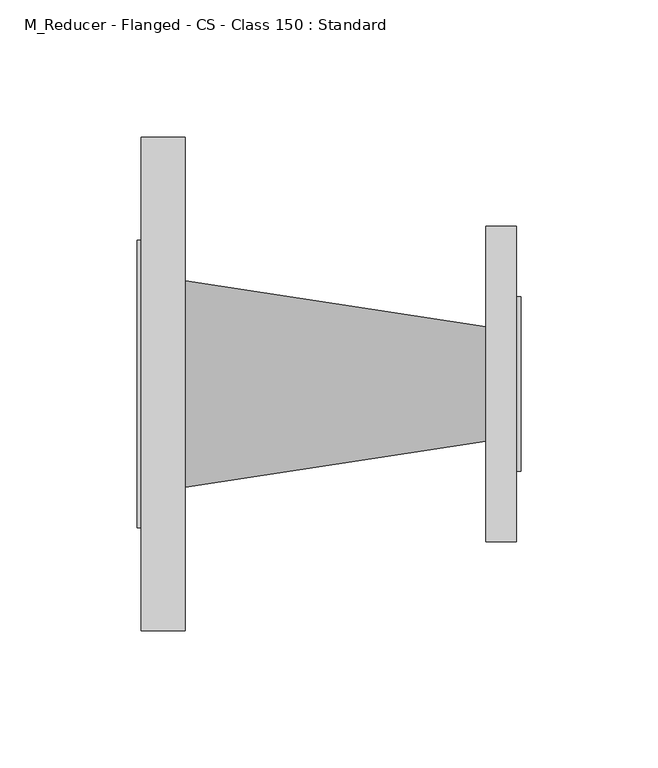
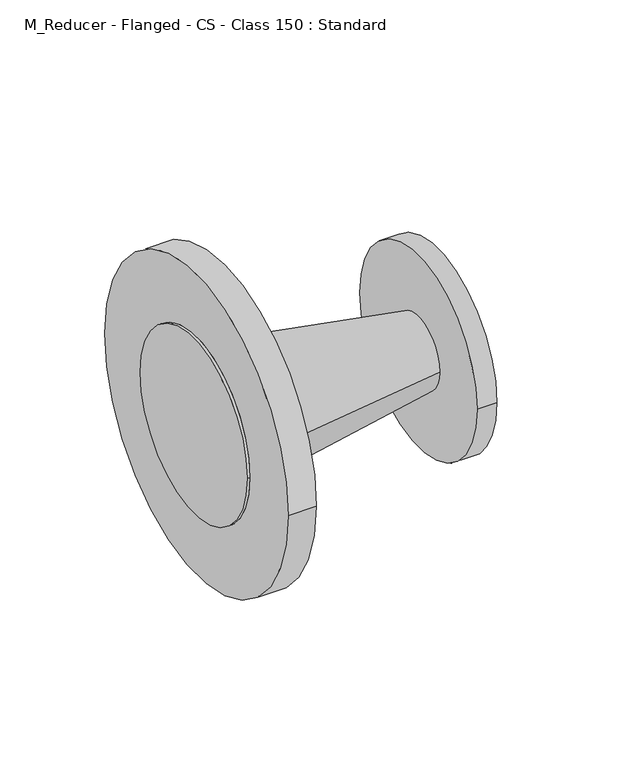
"""IFC4 building model written with IfcOpenShell, lengths in millimetres: pipe fitting geometry, M_Reducer - Flanged - CS - Class 150 : Standard."""

from ifc_helpers import new_model, si_unit, frame, origin, place, context, project, spatial, polyline, circle_curve, source, transform, mapped, element, save
from ifc_brep_helpers import plane_surface, cylinder_surface, revolved_surface, advanced_brep


def m_reducer_flanged_cs_class_150_standard_777fbdd8(model_context):
    return source(origin(), model_context, "Body", "AdvancedBrep", [
        advanced_brep(
        [(17.4875, -90.0, 0.0), (17.4875, 90.0, 0.0), (17.4875, 37.6, 0.0), (17.4875, -37.6, 0.0), (1.5875, -90.0, 0.0), (1.5875, 90.0, 0.0), (1.5875, -52.4, 0.0), (1.5875, 52.4, 0.0), (127.2125, 20.8, 0.0), (127.2125, -20.8, 0.0), (138.4125, -57.5, 0.0), (138.4125, 57.5, 0.0), (138.4125, 31.75, 0.0), (138.4125, -31.75, 0.0), (127.2125, -57.5, 0.0), (127.2125, 57.5, 0.0), (0.0, -52.4, 0.0), (0.0, 52.4, 0.0), (140.0, -31.75, 0.0), (140.0, 31.75, 0.0)],
        [
            (0, 1, circle_curve(frame((17.4875, 0.0, 0.0), z_axis=(1.0, 0.0, 0.0), x_axis=(0.0, 1.0, 0.0)), 90.0)),
            (1, 0, circle_curve(frame((17.4875, 0.0, 0.0), z_axis=(1.0, 0.0, 0.0), x_axis=(0.0, 1.0, 0.0)), 90.0)),
            (2, 3, circle_curve(frame((17.4875, 0.0, 0.0), z_axis=(-1.0, 0.0, 0.0), x_axis=(0.0, -1.0, 0.0)), 37.6)),
            (3, 2, circle_curve(frame((17.4875, 0.0, 0.0), z_axis=(-1.0, 0.0, 0.0), x_axis=(0.0, 1.0, 0.0)), 37.6)),
            (4, 5, circle_curve(frame((1.5875, 0.0, 0.0), z_axis=(-1.0, 0.0, 0.0), x_axis=(0.0, 1.0, 0.0)), 90.0)),
            (5, 4, circle_curve(frame((1.5875, 0.0, 0.0), z_axis=(-1.0, 0.0, 0.0), x_axis=(0.0, 1.0, 0.0)), 90.0)),
            (6, 7, circle_curve(frame((1.5875, 0.0, 0.0), z_axis=(1.0, 0.0, 0.0), x_axis=(0.0, 1.0, 0.0)), 52.4)),
            (7, 6, circle_curve(frame((1.5875, 0.0, 0.0), z_axis=(1.0, 0.0, 0.0), x_axis=(0.0, 1.0, 0.0)), 52.4)),
            (0, 4),
            (5, 1),
            (2, 8),
            (8, 9, circle_curve(frame((127.2125, 0.0, 0.0), z_axis=(-1.0, 0.0, 0.0), x_axis=(0.0, -1.0, 0.0)), 20.8)),
            (9, 3),
            (9, 8, circle_curve(frame((127.2125, 0.0, 0.0), z_axis=(-1.0, 0.0, 0.0), x_axis=(0.0, 1.0, 0.0)), 20.8)),
            (10, 11, circle_curve(frame((138.4125, 0.0, 0.0), z_axis=(1.0, 0.0, 0.0), x_axis=(0.0, 1.0, 0.0)), 57.5)),
            (11, 10, circle_curve(frame((138.4125, 0.0, 0.0), z_axis=(1.0, 0.0, 0.0), x_axis=(0.0, 1.0, 0.0)), 57.5)),
            (12, 13, circle_curve(frame((138.4125, 0.0, 0.0), z_axis=(-1.0, 0.0, 0.0), x_axis=(0.0, 1.0, 0.0)), 31.75)),
            (13, 12, circle_curve(frame((138.4125, 0.0, 0.0), z_axis=(-1.0, 0.0, 0.0), x_axis=(0.0, 1.0, 0.0)), 31.75)),
            (14, 15, circle_curve(frame((127.2125, 0.0, 0.0), z_axis=(-1.0, 0.0, 0.0), x_axis=(0.0, 1.0, 0.0)), 57.5)),
            (15, 14, circle_curve(frame((127.2125, 0.0, 0.0), z_axis=(-1.0, 0.0, 0.0), x_axis=(0.0, 1.0, 0.0)), 57.5)),
            (10, 14),
            (15, 11),
            (16, 17, circle_curve(frame((0.0, 0.0, 0.0), z_axis=(-1.0, 0.0, 0.0), x_axis=(0.0, 1.0, 0.0)), 52.4)),
            (17, 16, circle_curve(frame((0.0, 0.0, 0.0), z_axis=(-1.0, 0.0, 0.0), x_axis=(0.0, 1.0, 0.0)), 52.4)),
            (17, 7),
            (6, 16),
            (18, 19, circle_curve(frame((140.0, 0.0, 0.0), z_axis=(1.0, 0.0, 0.0), x_axis=(0.0, 1.0, 0.0)), 31.75)),
            (19, 18, circle_curve(frame((140.0, 0.0, 0.0), z_axis=(1.0, 0.0, 0.0), x_axis=(0.0, 1.0, 0.0)), 31.75)),
            (18, 13),
            (12, 19),
        ],
        [
            plane_surface(frame((17.4875, 90.0, 0.0), z_axis=(1.0, 0.0, 0.0), x_axis=(0.0, 0.0, 1.0))),
            plane_surface(frame((1.5875, 90.0, 0.0), z_axis=(-1.0, 0.0, 0.0), x_axis=(0.0, 0.0, -1.0))),
            cylinder_surface(frame((1.5875, 0.0, 0.0), z_axis=(1.0, 0.0, 0.0), x_axis=(0.0, 1.0, 0.0)), 90.0),
            revolved_surface(polyline([(127.2125, 20.8, 0.0), (17.48750000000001, 37.6, 0.0)]), (263.0625, 0.0, 0.0), (-1.0, 0.0, 0.0)),
            plane_surface(frame((138.4125, 57.5, 0.0), z_axis=(1.0, 0.0, 0.0), x_axis=(0.0, 0.0, 1.0))),
            plane_surface(frame((127.2125, 57.5, 0.0), z_axis=(-1.0, 0.0, 0.0), x_axis=(0.0, 0.0, -1.0))),
            cylinder_surface(frame((127.2125, 0.0, 0.0), z_axis=(1.0, 0.0, 0.0), x_axis=(0.0, 1.0, 0.0)), 57.5),
            plane_surface(frame((0.0, 52.4, 0.0), z_axis=(-1.0, 0.0, 0.0), x_axis=(0.0, 0.0, -1.0))),
            cylinder_surface(frame((0.0, 0.0, 0.0), z_axis=(1.0, 0.0, 0.0), x_axis=(0.0, 1.0, 0.0)), 52.4),
            plane_surface(frame((140.0, 31.75, 0.0), z_axis=(1.0, 0.0, 0.0), x_axis=(0.0, 0.0, 1.0))),
            cylinder_surface(frame((138.4125, 0.0, 0.0), z_axis=(1.0, 0.0, 0.0), x_axis=(0.0, 1.0, 0.0)), 31.75),
        ],
        [
            (0, [[1, 2], [3, 4]]),
            (1, [[5, 6], [7, 8]]),
            (2, [[-1, 9, -6, 10]]),
            (2, [[-2, -10, -5, -9]]),
            (3, [[11, 12, 13, -3]]),
            (3, [[-11, -4, -13, 14]]),
            (4, [[15, 16], [17, 18]]),
            (5, [[19, 20], [-12, -14]]),
            (6, [[-15, 21, -20, 22]]),
            (6, [[-16, -22, -19, -21]]),
            (7, [[23, 24]]),
            (8, [[-24, 25, -7, 26]]),
            (8, [[-23, -26, -8, -25]]),
            (9, [[27, 28]]),
            (10, [[-27, 29, -17, 30]]),
            (10, [[-28, -30, -18, -29]]),
        ],
    ),
    ])


if __name__ == "__main__":
    model = new_model("IFC4")
    model_context = context("Model", 3, world=origin())
    ifc_project = project(units=[si_unit("LENGTHUNIT", "METRE", prefix="MILLI")], contexts=[model_context])
    site = spatial("IfcSite", under=ifc_project)
    building = spatial("IfcBuilding", under=site)
    placement = place(None, origin())
    m_reducer_flanged_cs_class_150_standard_shape = m_reducer_flanged_cs_class_150_standard_777fbdd8(model_context)
    element("IfcPipeFitting", 1, ObjectType="M_Reducer - Flanged - CS - Class 150 : Standard", at=placement, inside=building, context=model_context, shape_type="MappedRepresentation", body=[
        mapped(m_reducer_flanged_cs_class_150_standard_shape, transform((0.0, 0.0, 0.0), x_axis=(1.0, 0.0, 0.0), y_axis=(0.0, 1.0, 0.0), z_axis=(0.0, 0.0, 1.0))),
    ])
    save(model, "model.ifc")
